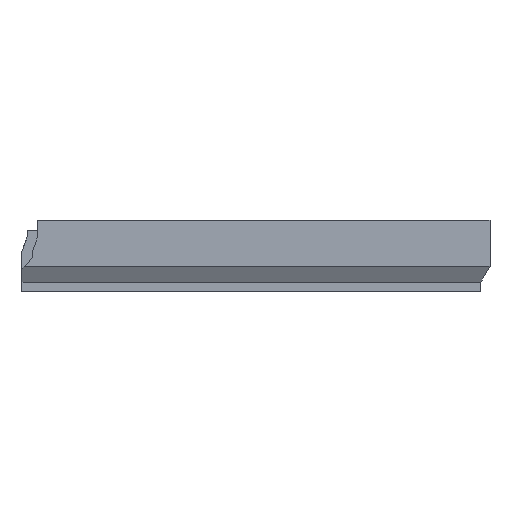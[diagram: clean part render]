
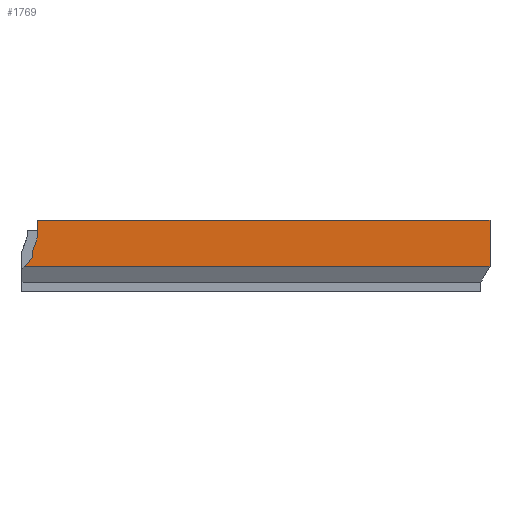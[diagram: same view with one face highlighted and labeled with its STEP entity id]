
A CAD part, left-side view. The second image highlights one B-rep face of the part: STEP entity #1769.
In plain terms, the highlighted planar face has unit normal (-1, 0, 0).
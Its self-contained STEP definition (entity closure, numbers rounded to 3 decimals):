
#311 = PLANE('',#312);
#312 = AXIS2_PLACEMENT_3D('',#313,#314,#315);
#313 = CARTESIAN_POINT('',(-193.5,-6.1,23.35));
#314 = DIRECTION('',(0.,1.,-0.));
#315 = DIRECTION('',(-1.,0.,0.));
#411 = PLANE('',#412);
#412 = AXIS2_PLACEMENT_3D('',#413,#414,#415);
#413 = CARTESIAN_POINT('',(0.,-3.046,27.4));
#414 = DIRECTION('',(0.,0.,1.));
#415 = DIRECTION('',(1.,0.,-0.));
#499 = VERTEX_POINT('',#500);
#500 = CARTESIAN_POINT('',(-195.2,-6.1,21.));
#514 = PLANE('',#515);
#515 = AXIS2_PLACEMENT_3D('',#516,#517,#518);
#516 = CARTESIAN_POINT('',(-193.5,-6.1,21.));
#517 = DIRECTION('',(0.,0.94,0.342));
#518 = DIRECTION('',(-1.,0.,0.));
#526 = EDGE_CURVE('',#499,#527,#529,.T.);
#527 = VERTEX_POINT('',#528);
#528 = CARTESIAN_POINT('',(-195.2,-6.1,27.4));
#529 = SURFACE_CURVE('',#530,(#534,#540),.PCURVE_S1.);
#530 = LINE('',#531,#532);
#531 = CARTESIAN_POINT('',(-195.2,-6.1,24.15));
#532 = VECTOR('',#533,1.);
#533 = DIRECTION('',(0.,0.,1.));
#534 = PCURVE('',#311,#535);
#535 = DEFINITIONAL_REPRESENTATION('',(#536),#539);
#536 = B_SPLINE_CURVE_WITH_KNOTS('',1,(#537,#538),.UNSPECIFIED.,.F.,.F.,
  (2,2),(-3.15,3.25),.PIECEWISE_BEZIER_KNOTS.);
#537 = CARTESIAN_POINT('',(1.7,-2.35));
#538 = CARTESIAN_POINT('',(1.7,4.05));
#539 = ( GEOMETRIC_REPRESENTATION_CONTEXT(2) 
PARAMETRIC_REPRESENTATION_CONTEXT() REPRESENTATION_CONTEXT('2D SPACE',''
  ) );
#540 = PCURVE('',#541,#546);
#541 = PLANE('',#542);
#542 = AXIS2_PLACEMENT_3D('',#543,#544,#545);
#543 = CARTESIAN_POINT('',(-195.2,152.,24.95));
#544 = DIRECTION('',(1.,0.,-0.));
#545 = DIRECTION('',(0.,-1.,0.));
#546 = DEFINITIONAL_REPRESENTATION('',(#547),#550);
#547 = B_SPLINE_CURVE_WITH_KNOTS('',1,(#548,#549),.UNSPECIFIED.,.F.,.F.,
  (2,2),(-3.15,3.25),.PIECEWISE_BEZIER_KNOTS.);
#548 = CARTESIAN_POINT('',(158.1,3.95));
#549 = CARTESIAN_POINT('',(158.1,-2.45));
#550 = ( GEOMETRIC_REPRESENTATION_CONTEXT(2) 
PARAMETRIC_REPRESENTATION_CONTEXT() REPRESENTATION_CONTEXT('2D SPACE',''
  ) );
#1385 = PLANE('',#1386);
#1386 = AXIS2_PLACEMENT_3D('',#1387,#1388,#1389);
#1387 = CARTESIAN_POINT('',(-195.2,-179.2,24.95));
#1388 = DIRECTION('',(0.,1.,0.));
#1389 = DIRECTION('',(1.,0.,0.));
#1546 = EDGE_CURVE('',#527,#1547,#1549,.T.);
#1547 = VERTEX_POINT('',#1548);
#1548 = CARTESIAN_POINT('',(-195.2,-179.2,27.4));
#1549 = SURFACE_CURVE('',#1550,(#1554,#1561),.PCURVE_S1.);
#1550 = LINE('',#1551,#1552);
#1551 = CARTESIAN_POINT('',(-195.2,152.,27.4));
#1552 = VECTOR('',#1553,1.);
#1553 = DIRECTION('',(0.,-1.,0.));
#1554 = PCURVE('',#411,#1555);
#1555 = DEFINITIONAL_REPRESENTATION('',(#1556),#1560);
#1556 = LINE('',#1557,#1558);
#1557 = CARTESIAN_POINT('',(-195.2,155.046));
#1558 = VECTOR('',#1559,1.);
#1559 = DIRECTION('',(0.,-1.));
#1560 = ( GEOMETRIC_REPRESENTATION_CONTEXT(2) 
PARAMETRIC_REPRESENTATION_CONTEXT() REPRESENTATION_CONTEXT('2D SPACE',''
  ) );
#1561 = PCURVE('',#541,#1562);
#1562 = DEFINITIONAL_REPRESENTATION('',(#1563),#1567);
#1563 = LINE('',#1564,#1565);
#1564 = CARTESIAN_POINT('',(0.,-2.45));
#1565 = VECTOR('',#1566,1.);
#1566 = DIRECTION('',(1.,0.));
#1567 = ( GEOMETRIC_REPRESENTATION_CONTEXT(2) 
PARAMETRIC_REPRESENTATION_CONTEXT() REPRESENTATION_CONTEXT('2D SPACE',''
  ) );
#1640 = PLANE('',#1641);
#1641 = AXIS2_PLACEMENT_3D('',#1642,#1643,#1644);
#1642 = CARTESIAN_POINT('',(-193.5,-4.1,13.));
#1643 = DIRECTION('',(0.,0.73,0.684));
#1644 = DIRECTION('',(-1.,0.,0.));
#1665 = PLANE('',#1666);
#1666 = AXIS2_PLACEMENT_3D('',#1667,#1668,#1669);
#1667 = CARTESIAN_POINT('',(-193.5,-4.1,15.5));
#1668 = DIRECTION('',(0.,1.,-0.));
#1669 = DIRECTION('',(-1.,0.,0.));
#1769 = ADVANCED_FACE('',(#1770),#541,.F.);
#1770 = FACE_BOUND('',#1771,.F.);
#1771 = EDGE_LOOP('',(#1772,#1773,#1796,#1824,#1845,#1866,#1885));
#1772 = ORIENTED_EDGE('',*,*,#1546,.T.);
#1773 = ORIENTED_EDGE('',*,*,#1774,.T.);
#1774 = EDGE_CURVE('',#1547,#1775,#1777,.T.);
#1775 = VERTEX_POINT('',#1776);
#1776 = CARTESIAN_POINT('',(-195.2,-179.2,9.762));
#1777 = SURFACE_CURVE('',#1778,(#1782,#1789),.PCURVE_S1.);
#1778 = LINE('',#1779,#1780);
#1779 = CARTESIAN_POINT('',(-195.2,-179.2,27.4));
#1780 = VECTOR('',#1781,1.);
#1781 = DIRECTION('',(0.,0.,-1.));
#1782 = PCURVE('',#541,#1783);
#1783 = DEFINITIONAL_REPRESENTATION('',(#1784),#1788);
#1784 = LINE('',#1785,#1786);
#1785 = CARTESIAN_POINT('',(331.2,-2.45));
#1786 = VECTOR('',#1787,1.);
#1787 = DIRECTION('',(0.,1.));
#1788 = ( GEOMETRIC_REPRESENTATION_CONTEXT(2) 
PARAMETRIC_REPRESENTATION_CONTEXT() REPRESENTATION_CONTEXT('2D SPACE',''
  ) );
#1789 = PCURVE('',#1385,#1790);
#1790 = DEFINITIONAL_REPRESENTATION('',(#1791),#1795);
#1791 = LINE('',#1792,#1793);
#1792 = CARTESIAN_POINT('',(0.,-2.45));
#1793 = VECTOR('',#1794,1.);
#1794 = DIRECTION('',(0.,1.));
#1795 = ( GEOMETRIC_REPRESENTATION_CONTEXT(2) 
PARAMETRIC_REPRESENTATION_CONTEXT() REPRESENTATION_CONTEXT('2D SPACE',''
  ) );
#1796 = ORIENTED_EDGE('',*,*,#1797,.F.);
#1797 = EDGE_CURVE('',#1798,#1775,#1800,.T.);
#1798 = VERTEX_POINT('',#1799);
#1799 = CARTESIAN_POINT('',(-195.2,-1.065,9.762));
#1800 = SURFACE_CURVE('',#1801,(#1805,#1812),.PCURVE_S1.);
#1801 = LINE('',#1802,#1803);
#1802 = CARTESIAN_POINT('',(-195.2,152.,9.762));
#1803 = VECTOR('',#1804,1.);
#1804 = DIRECTION('',(0.,-1.,0.));
#1805 = PCURVE('',#541,#1806);
#1806 = DEFINITIONAL_REPRESENTATION('',(#1807),#1811);
#1807 = LINE('',#1808,#1809);
#1808 = CARTESIAN_POINT('',(0.,15.188));
#1809 = VECTOR('',#1810,1.);
#1810 = DIRECTION('',(1.,0.));
#1811 = ( GEOMETRIC_REPRESENTATION_CONTEXT(2) 
PARAMETRIC_REPRESENTATION_CONTEXT() REPRESENTATION_CONTEXT('2D SPACE',''
  ) );
#1812 = PCURVE('',#1813,#1818);
#1813 = PLANE('',#1814);
#1814 = AXIS2_PLACEMENT_3D('',#1815,#1816,#1817);
#1815 = CARTESIAN_POINT('',(-193.45,-12.725,6.731));
#1816 = DIRECTION('',(-0.866,0.,-0.5));
#1817 = DIRECTION('',(0.,-1.,
    0.));
#1818 = DEFINITIONAL_REPRESENTATION('',(#1819),#1823);
#1819 = LINE('',#1820,#1821);
#1820 = CARTESIAN_POINT('',(-164.725,3.519));
#1821 = VECTOR('',#1822,1.);
#1822 = DIRECTION('',(1.,0.));
#1823 = ( GEOMETRIC_REPRESENTATION_CONTEXT(2) 
PARAMETRIC_REPRESENTATION_CONTEXT() REPRESENTATION_CONTEXT('2D SPACE',''
  ) );
#1824 = ORIENTED_EDGE('',*,*,#1825,.T.);
#1825 = EDGE_CURVE('',#1798,#1826,#1828,.T.);
#1826 = VERTEX_POINT('',#1827);
#1827 = CARTESIAN_POINT('',(-195.2,-4.1,13.));
#1828 = SURFACE_CURVE('',#1829,(#1833,#1839),.PCURVE_S1.);
#1829 = LINE('',#1830,#1831);
#1830 = CARTESIAN_POINT('',(-195.2,29.429,-22.764));
#1831 = VECTOR('',#1832,1.);
#1832 = DIRECTION('',(0.,-0.684,0.73));
#1833 = PCURVE('',#541,#1834);
#1834 = DEFINITIONAL_REPRESENTATION('',(#1835),#1838);
#1835 = B_SPLINE_CURVE_WITH_KNOTS('',1,(#1836,#1837),.UNSPECIFIED.,.F.,
  .F.,(2,2),(44.584,49.023),.PIECEWISE_BEZIER_KNOTS.);
#1836 = CARTESIAN_POINT('',(153.065,15.188));
#1837 = CARTESIAN_POINT('',(156.1,11.95));
#1838 = ( GEOMETRIC_REPRESENTATION_CONTEXT(2) 
PARAMETRIC_REPRESENTATION_CONTEXT() REPRESENTATION_CONTEXT('2D SPACE',''
  ) );
#1839 = PCURVE('',#1640,#1840);
#1840 = DEFINITIONAL_REPRESENTATION('',(#1841),#1844);
#1841 = B_SPLINE_CURVE_WITH_KNOTS('',1,(#1842,#1843),.UNSPECIFIED.,.F.,
  .F.,(2,2),(44.584,49.023),.PIECEWISE_BEZIER_KNOTS.);
#1842 = CARTESIAN_POINT('',(1.7,-4.438));
#1843 = CARTESIAN_POINT('',(1.7,0.));
#1844 = ( GEOMETRIC_REPRESENTATION_CONTEXT(2) 
PARAMETRIC_REPRESENTATION_CONTEXT() REPRESENTATION_CONTEXT('2D SPACE',''
  ) );
#1845 = ORIENTED_EDGE('',*,*,#1846,.T.);
#1846 = EDGE_CURVE('',#1826,#1847,#1849,.T.);
#1847 = VERTEX_POINT('',#1848);
#1848 = CARTESIAN_POINT('',(-195.2,-4.1,15.5));
#1849 = SURFACE_CURVE('',#1850,(#1854,#1860),.PCURVE_S1.);
#1850 = LINE('',#1851,#1852);
#1851 = CARTESIAN_POINT('',(-195.2,-4.1,20.225));
#1852 = VECTOR('',#1853,1.);
#1853 = DIRECTION('',(0.,0.,1.));
#1854 = PCURVE('',#541,#1855);
#1855 = DEFINITIONAL_REPRESENTATION('',(#1856),#1859);
#1856 = B_SPLINE_CURVE_WITH_KNOTS('',1,(#1857,#1858),.UNSPECIFIED.,.F.,
  .F.,(2,2),(-7.225,-4.725),.PIECEWISE_BEZIER_KNOTS.);
#1857 = CARTESIAN_POINT('',(156.1,11.95));
#1858 = CARTESIAN_POINT('',(156.1,9.45));
#1859 = ( GEOMETRIC_REPRESENTATION_CONTEXT(2) 
PARAMETRIC_REPRESENTATION_CONTEXT() REPRESENTATION_CONTEXT('2D SPACE',''
  ) );
#1860 = PCURVE('',#1665,#1861);
#1861 = DEFINITIONAL_REPRESENTATION('',(#1862),#1865);
#1862 = B_SPLINE_CURVE_WITH_KNOTS('',1,(#1863,#1864),.UNSPECIFIED.,.F.,
  .F.,(2,2),(-7.225,-4.725),.PIECEWISE_BEZIER_KNOTS.);
#1863 = CARTESIAN_POINT('',(1.7,-2.5));
#1864 = CARTESIAN_POINT('',(1.7,0.));
#1865 = ( GEOMETRIC_REPRESENTATION_CONTEXT(2) 
PARAMETRIC_REPRESENTATION_CONTEXT() REPRESENTATION_CONTEXT('2D SPACE',''
  ) );
#1866 = ORIENTED_EDGE('',*,*,#1867,.T.);
#1867 = EDGE_CURVE('',#1847,#499,#1868,.T.);
#1868 = SURFACE_CURVE('',#1869,(#1873,#1879),.PCURVE_S1.);
#1869 = LINE('',#1870,#1871);
#1870 = CARTESIAN_POINT('',(-195.2,2.498,-2.644));
#1871 = VECTOR('',#1872,1.);
#1872 = DIRECTION('',(0.,-0.342,0.94));
#1873 = PCURVE('',#541,#1874);
#1874 = DEFINITIONAL_REPRESENTATION('',(#1875),#1878);
#1875 = B_SPLINE_CURVE_WITH_KNOTS('',1,(#1876,#1877),.UNSPECIFIED.,.F.,
  .F.,(2,2),(19.306,25.159),.PIECEWISE_BEZIER_KNOTS.);
#1876 = CARTESIAN_POINT('',(156.1,9.45));
#1877 = CARTESIAN_POINT('',(158.1,3.95));
#1878 = ( GEOMETRIC_REPRESENTATION_CONTEXT(2) 
PARAMETRIC_REPRESENTATION_CONTEXT() REPRESENTATION_CONTEXT('2D SPACE',''
  ) );
#1879 = PCURVE('',#514,#1880);
#1880 = DEFINITIONAL_REPRESENTATION('',(#1881),#1884);
#1881 = B_SPLINE_CURVE_WITH_KNOTS('',1,(#1882,#1883),.UNSPECIFIED.,.F.,
  .F.,(2,2),(19.306,25.159),.PIECEWISE_BEZIER_KNOTS.);
#1882 = CARTESIAN_POINT('',(1.7,-5.852));
#1883 = CARTESIAN_POINT('',(1.7,0.));
#1884 = ( GEOMETRIC_REPRESENTATION_CONTEXT(2) 
PARAMETRIC_REPRESENTATION_CONTEXT() REPRESENTATION_CONTEXT('2D SPACE',''
  ) );
#1885 = ORIENTED_EDGE('',*,*,#526,.T.);
